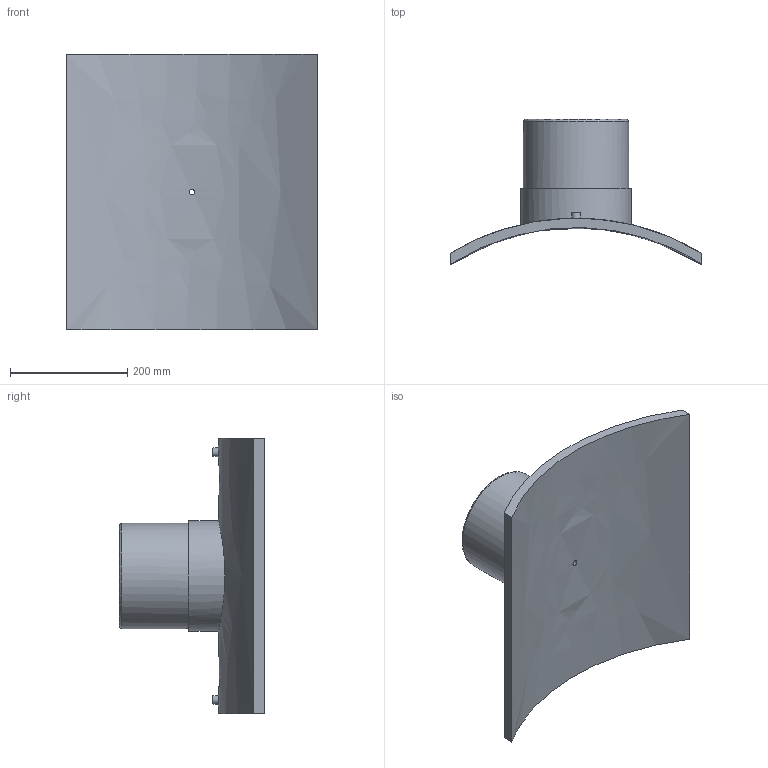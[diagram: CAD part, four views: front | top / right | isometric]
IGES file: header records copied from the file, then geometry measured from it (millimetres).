
Global section: file name: 495803800180T; native system: Autodesk Inventor 2019; preprocessor: unknown; author: KIM; date: 20240404.115703; units: millimetre
Bounding box: 430 x 247.69 x 470 mm (x, y, z)
Volume: 5144168.2 mm3; surface area: 643265.3 mm2
Topology: 1 solids, 1 shells, 29 faces, 60 edges, 43 vertices
Faces by surface type: bspline 29
